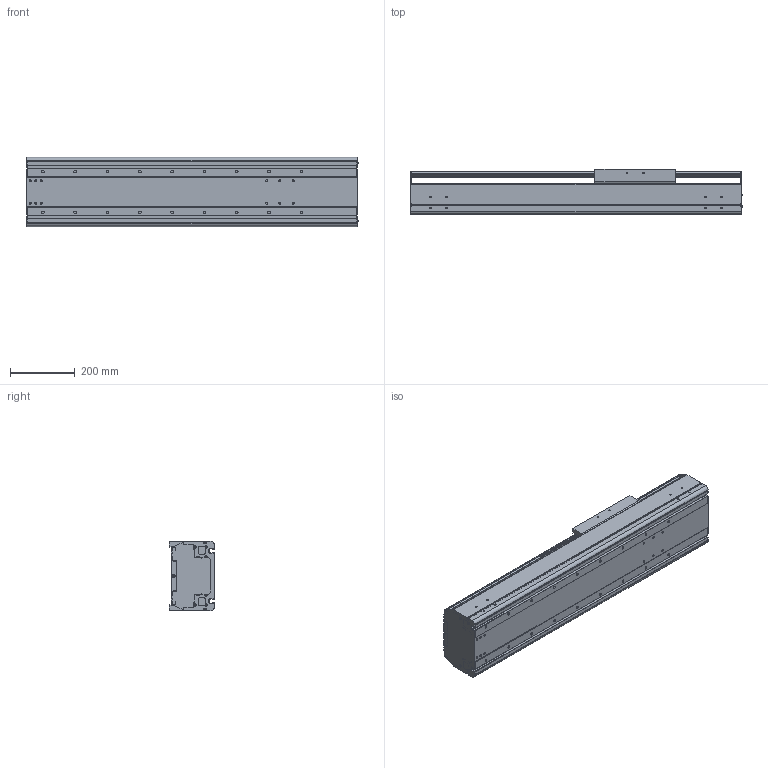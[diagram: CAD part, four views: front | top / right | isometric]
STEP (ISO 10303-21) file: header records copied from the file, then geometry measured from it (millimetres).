
FILE_DESCRIPTION((''),'2;1');
FILE_NAME('BE60J-ST-M_B-50_IGS_PRT','2017-06-18T',(' '),(''),'PRO/ENGINEER BY PARAMETRIC TECHNOLOGY CORPORATION, 2015030','PRO/ENGINEER BY PARAMETRIC TECHNOLOGY CORPORATION, 2015030','');
FILE_SCHEMA(('CONFIG_CONTROL_DESIGN'));
Length unit declared in the file: millimetre
Products named in the file (1): BE60J-ST-M_B-50_IGS_PRT
Bounding box: 1027.4 x 140 x 214 mm (x, y, z)
Volume: 8377585.4 mm3; surface area: 2235570 mm2
Topology: 2 solids, 28 shells, 1073 faces, 2860 edges, 1841 vertices
Faces by surface type: plane 515, cylinder 458, cone 52, sphere 24, torus 24
Entity records: 33755 total; most frequent: CARTESIAN_POINT 6326, DIRECTION 5856, ORIENTED_EDGE 5524, EDGE_CURVE 2810, AXIS2_PLACEMENT_3D 2082, VERTEX_POINT 1840, VECTOR 1692, LINE 1692
